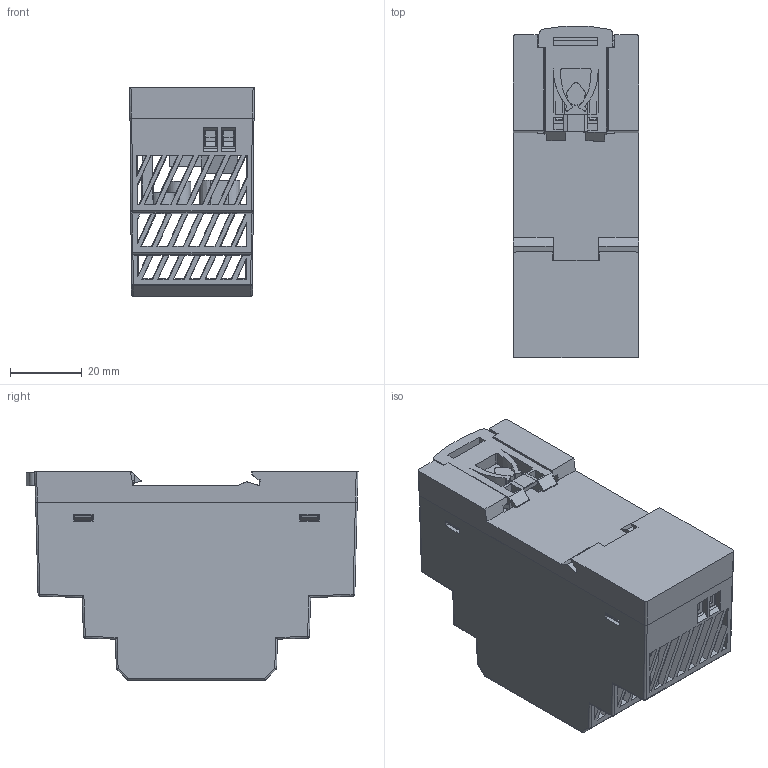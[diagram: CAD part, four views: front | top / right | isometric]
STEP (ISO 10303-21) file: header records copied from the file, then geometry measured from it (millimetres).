
FILE_DESCRIPTION((''),'2;1');
FILE_NAME('DLP-04_ASM','2020-06-12T09:44:46',('shalinice'),(''),'CREO PARAMETRIC BY PTC INC, 2016390','CREO PARAMETRIC BY PTC INC, 2016390','');
FILE_SCHEMA(('AUTOMOTIVE_DESIGN { 1 0 10303 214 1 1 1 1 }'));
Length unit declared in the file: millimetre
Products named in the file (10): XIAGAI_21_PRT_1; HOOK_PRT_1; DUANZI_1_PRT_1; DIPCB_1_PRT_1; SHANGGAI_2_PRT_1; DUANZI2_1_PRT_1; ZHUANGPEITU_ASM_8_ASM_ASM_1_ASM; DLP-04_STP_ASM_1_ASM; DLP-04_ASM_1_ASM; DLP-04_ASM
Assembly tree (9 placements, depth 5):
  DLP-04_ASM
    DLP-04_ASM_1_ASM
      XIAGAI_21_PRT_1
      HOOK_PRT_1
      DLP-04_STP_ASM_1_ASM
        ZHUANGPEITU_ASM_8_ASM_ASM_1_ASM
          DUANZI_1_PRT_1
          DIPCB_1_PRT_1
          SHANGGAI_2_PRT_1
          DUANZI2_1_PRT_1
Bounding box: 35.01 x 92.46 x 58 mm (x, y, z)
Volume: 37002.5 mm3; surface area: 47135.2 mm2
Topology: 6 solids, 6 shells, 977 faces, 3022 edges, 1980 vertices
Faces by surface type: plane 770, cylinder 122, sphere 40, cone 39, bspline 4, extrusion 2
Entity records: 40705 total; most frequent: CARTESIAN_POINT 8304, ORIENTED_EDGE 5964, DIRECTION 4832, EDGE_CURVE 2982, VECTOR 2394, LINE 2392, VERTEX_POINT 1980, AXIS2_PLACEMENT_3D 1219
